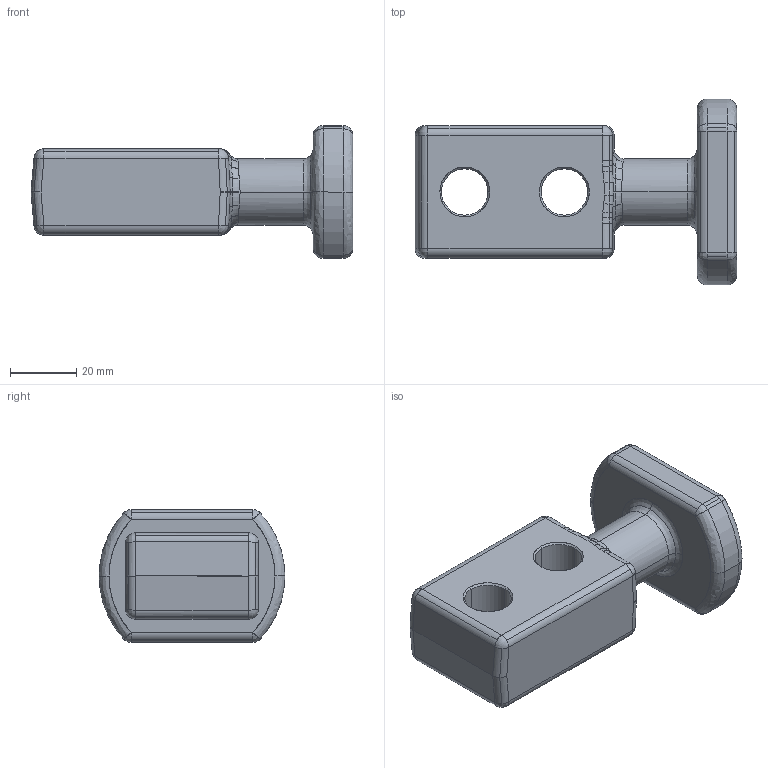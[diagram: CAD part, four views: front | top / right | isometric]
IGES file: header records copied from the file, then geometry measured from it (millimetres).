
Global section: file name: E:\UnigraphicsGraphicData\MISUMI_PRESS-PARTS\IGES\3d_chpl20_03564_r00.igs; native system: NX V5.0; preprocessor: UGS NX IGES V5.0; author: MISUMI; date: 20110105.160234; units: millimetre
Bounding box: 97 x 56 x 40 mm (x, y, z)
Surface area: 17263.4 mm2 (no closed solid volume)
Topology: 0 solids, 0 shells, 202 faces, 1011 edges, 993 vertices
Faces by surface type: bspline 202
